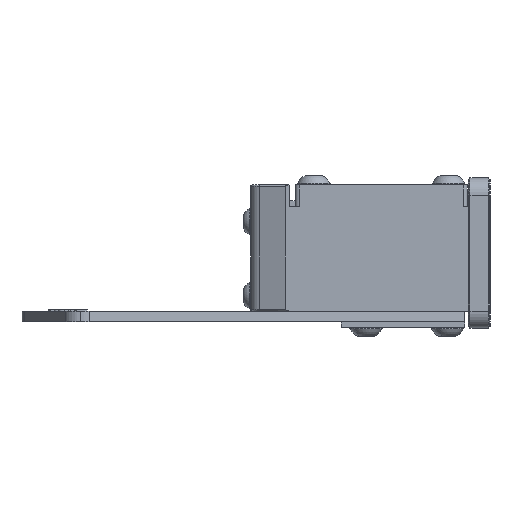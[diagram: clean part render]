
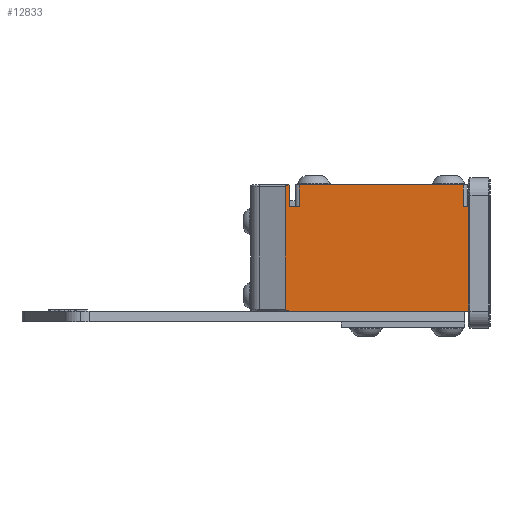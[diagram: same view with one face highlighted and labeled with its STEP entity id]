
A CAD part, left-side view. The second image highlights one B-rep face of the part: STEP entity #12833.
In plain terms, the highlighted planar face has unit normal (-1, 0, 0).
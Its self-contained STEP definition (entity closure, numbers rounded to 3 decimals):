
#32 = DIRECTION ( 'NONE',  ( 0., 0., 1. ) ) ;
#317 = DIRECTION ( 'NONE',  ( 0., 0., 1. ) ) ;
#411 = EDGE_CURVE ( 'NONE', #17088, #29039, #18129, .T. ) ;
#891 = CARTESIAN_POINT ( 'NONE',  ( -79.375, -140.564, 33.675 ) ) ;
#1162 = EDGE_CURVE ( 'NONE', #20002, #11359, #23067, .T. ) ;
#1196 = CARTESIAN_POINT ( 'NONE',  ( -79.375, -139.294, 3.406 ) ) ;
#1363 = LINE ( 'NONE', #17496, #13593 ) ;
#1388 = LINE ( 'NONE', #6150, #7951 ) ;
#1408 = AXIS2_PLACEMENT_3D ( 'NONE', #18941, #4310, #21393 ) ;
#1512 = CARTESIAN_POINT ( 'NONE',  ( -79.375, -140.241, 39.991 ) ) ;
#1779 = LINE ( 'NONE', #14967, #21266 ) ;
#2020 = ORIENTED_EDGE ( 'NONE', *, *, #1162, .T. ) ;
#2089 = ORIENTED_EDGE ( 'NONE', *, *, #28227, .T. ) ;
#2781 = EDGE_CURVE ( 'NONE', #9736, #19938, #26239, .T. ) ;
#2867 = CARTESIAN_POINT ( 'NONE',  ( -79.375, -140.78, 3.195 ) ) ;
#3292 = ORIENTED_EDGE ( 'NONE', *, *, #26029, .F. ) ;
#3655 = CARTESIAN_POINT ( 'NONE',  ( -79.375, -139.294, 3.703 ) ) ;
#3837 = DIRECTION ( 'NONE',  ( 0., -1., 0. ) ) ;
#3868 = DIRECTION ( 'NONE',  ( 1., 0., 0. ) ) ;
#4310 = DIRECTION ( 'NONE',  ( -1., 0., 0. ) ) ;
#4373 = VECTOR ( 'NONE', #14324, 1000. ) ;
#4448 = VERTEX_POINT ( 'NONE', #16555 ) ;
#4702 = CARTESIAN_POINT ( 'NONE',  ( -79.375, -191.11, 40.025 ) ) ;
#4997 = CARTESIAN_POINT ( 'NONE',  ( -79.375, -141.834, 33.675 ) ) ;
#5470 = VERTEX_POINT ( 'NONE', #2867 ) ;
#6150 = CARTESIAN_POINT ( 'NONE',  ( -79.375, -142.088, 40.025 ) ) ;
#6678 = CARTESIAN_POINT ( 'NONE',  ( -79.375, -140.241, 39.991 ) ) ;
#6972 = CIRCLE ( 'NONE', #1408, 0.508 ) ;
#7012 = CARTESIAN_POINT ( 'NONE',  ( -79.375, -141.834, 3.195 ) ) ;
#7951 = VECTOR ( 'NONE', #20746, 1000. ) ;
#8619 = CARTESIAN_POINT ( 'NONE',  ( -79.375, -139.91, 3.195 ) ) ;
#8772 = LINE ( 'NONE', #10368, #15965 ) ;
#8792 = VERTEX_POINT ( 'NONE', #4702 ) ;
#8892 = EDGE_CURVE ( 'NONE', #17088, #8792, #1779, .T. ) ;
#9736 = VERTEX_POINT ( 'NONE', #6678 ) ;
#10183 = LINE ( 'NONE', #7012, #4373 ) ;
#10316 = DIRECTION ( 'NONE',  ( 0., -1., 0. ) ) ;
#10368 = CARTESIAN_POINT ( 'NONE',  ( -79.375, -140.564, -155.56 ) ) ;
#10391 = LINE ( 'NONE', #29960, #11121 ) ;
#10454 = EDGE_CURVE ( 'NONE', #5470, #16608, #10183, .T. ) ;
#11112 = CARTESIAN_POINT ( 'NONE',  ( -79.375, -143.358, 33.675 ) ) ;
#11121 = VECTOR ( 'NONE', #27495, 1000. ) ;
#11359 = VERTEX_POINT ( 'NONE', #11112 ) ;
#11654 = EDGE_CURVE ( 'NONE', #4448, #19938, #29986, .T. ) ;
#11661 = VECTOR ( 'NONE', #3837, 1000. ) ;
#12047 = VECTOR ( 'NONE', #32, 1000. ) ;
#12833 = ADVANCED_FACE ( 'NONE', ( #21511 ), #18492, .F. ) ;
#13584 = CARTESIAN_POINT ( 'NONE',  ( -79.375, -141.834, 37.485 ) ) ;
#13593 = VECTOR ( 'NONE', #10316, 1000. ) ;
#14129 =( BOUNDED_CURVE ( )  B_SPLINE_CURVE ( 3, ( #3655, #1196, #8619, #25642 ),
 .UNSPECIFIED., .F., .F. ) 
 B_SPLINE_CURVE_WITH_KNOTS ( ( 4, 4 ),
 ( 3.142, 4.712 ),
 .UNSPECIFIED. ) 
 CURVE ( )  GEOMETRIC_REPRESENTATION_ITEM ( )  RATIONAL_B_SPLINE_CURVE ( ( 1., 0.805, 0.805, 1. ) ) 
 REPRESENTATION_ITEM ( '' )  );
#14324 = DIRECTION ( 'NONE',  ( 0., -1., 0. ) ) ;
#14485 = ORIENTED_EDGE ( 'NONE', *, *, #8892, .T. ) ;
#14671 = CARTESIAN_POINT ( 'NONE',  ( -79.375, -139.294, -7.617 ) ) ;
#14725 = ORIENTED_EDGE ( 'NONE', *, *, #10454, .T. ) ;
#14967 = CARTESIAN_POINT ( 'NONE',  ( -79.375, -191.11, 40.025 ) ) ;
#15618 = EDGE_CURVE ( 'NONE', #20002, #8792, #1388, .T. ) ;
#15965 = VECTOR ( 'NONE', #25054, 1000. ) ;
#16135 = CARTESIAN_POINT ( 'NONE',  ( -79.375, -139.651, 39.912 ) ) ;
#16555 = CARTESIAN_POINT ( 'NONE',  ( -79.375, -139.294, 3.703 ) ) ;
#16608 = VERTEX_POINT ( 'NONE', #27838 ) ;
#17088 = VERTEX_POINT ( 'NONE', #18289 ) ;
#17319 = VECTOR ( 'NONE', #19031, 1000. ) ;
#17496 = CARTESIAN_POINT ( 'NONE',  ( -79.375, -141.834, 33.675 ) ) ;
#17563 = ORIENTED_EDGE ( 'NONE', *, *, #15618, .F. ) ;
#18129 = LINE ( 'NONE', #4997, #11661 ) ;
#18289 = CARTESIAN_POINT ( 'NONE',  ( -79.375, -191.11, 33.675 ) ) ;
#18492 = PLANE ( 'NONE',  #24452 ) ;
#18592 = CARTESIAN_POINT ( 'NONE',  ( -79.375, -139.294, 39.517 ) ) ;
#18680 = CARTESIAN_POINT ( 'NONE',  ( -79.375, -140.564, 39.517 ) ) ;
#18892 = CARTESIAN_POINT ( 'NONE',  ( -79.375, -139.294, 39.517 ) ) ;
#18941 = CARTESIAN_POINT ( 'NONE',  ( -79.375, -140.056, 39.517 ) ) ;
#19031 = DIRECTION ( 'NONE',  ( 0., 0., -1. ) ) ;
#19131 = CARTESIAN_POINT ( 'NONE',  ( -79.375, -143.358, 40.025 ) ) ;
#19501 = EDGE_CURVE ( 'NONE', #19913, #9736, #6972, .T. ) ;
#19913 = VERTEX_POINT ( 'NONE', #18680 ) ;
#19938 = VERTEX_POINT ( 'NONE', #18892 ) ;
#20002 = VERTEX_POINT ( 'NONE', #29018 ) ;
#20746 = DIRECTION ( 'NONE',  ( 0., -1., 0. ) ) ;
#20942 = DIRECTION ( 'NONE',  ( 0., 1., 0. ) ) ;
#21266 = VECTOR ( 'NONE', #317, 1000. ) ;
#21393 = DIRECTION ( 'NONE',  ( 0., 0., -1. ) ) ;
#21511 = FACE_OUTER_BOUND ( 'NONE', #26060, .T. ) ;
#21636 = ORIENTED_EDGE ( 'NONE', *, *, #11654, .F. ) ;
#22055 = EDGE_CURVE ( 'NONE', #29039, #16608, #10391, .T. ) ;
#22394 = VERTEX_POINT ( 'NONE', #891 ) ;
#23067 = LINE ( 'NONE', #19131, #17319 ) ;
#23255 = ORIENTED_EDGE ( 'NONE', *, *, #411, .F. ) ;
#23993 = EDGE_CURVE ( 'NONE', #22394, #19913, #8772, .T. ) ;
#24452 = AXIS2_PLACEMENT_3D ( 'NONE', #13584, #3868, #20942 ) ;
#25054 = DIRECTION ( 'NONE',  ( 0., 0., 1. ) ) ;
#25642 = CARTESIAN_POINT ( 'NONE',  ( -79.375, -140.78, 3.195 ) ) ;
#26029 = EDGE_CURVE ( 'NONE', #22394, #11359, #1363, .T. ) ;
#26060 = EDGE_LOOP ( 'NONE', ( #2020, #3292, #30526, #30442, #28037, #21636, #2089, #14725, #31306, #23255, #14485, #17563 ) ) ;
#26239 =( BOUNDED_CURVE ( )  B_SPLINE_CURVE ( 3, ( #1512, #16135, #30640, #18592 ),
 .UNSPECIFIED., .F., .F. ) 
 B_SPLINE_CURVE_WITH_KNOTS ( ( 4, 4 ),
 ( 1.942, 3.142 ),
 .UNSPECIFIED. ) 
 CURVE ( )  GEOMETRIC_REPRESENTATION_ITEM ( )  RATIONAL_B_SPLINE_CURVE ( ( 1., 0.884, 0.884, 1. ) ) 
 REPRESENTATION_ITEM ( '' )  );
#27495 = DIRECTION ( 'NONE',  ( 0., 0., -1. ) ) ;
#27838 = CARTESIAN_POINT ( 'NONE',  ( -79.375, -192.634, 3.195 ) ) ;
#28037 = ORIENTED_EDGE ( 'NONE', *, *, #2781, .T. ) ;
#28227 = EDGE_CURVE ( 'NONE', #4448, #5470, #14129, .T. ) ;
#29018 = CARTESIAN_POINT ( 'NONE',  ( -79.375, -143.358, 40.025 ) ) ;
#29039 = VERTEX_POINT ( 'NONE', #30154 ) ;
#29960 = CARTESIAN_POINT ( 'NONE',  ( -79.375, -192.634, 37.485 ) ) ;
#29986 = LINE ( 'NONE', #14671, #12047 ) ;
#30154 = CARTESIAN_POINT ( 'NONE',  ( -79.375, -192.634, 33.675 ) ) ;
#30442 = ORIENTED_EDGE ( 'NONE', *, *, #19501, .T. ) ;
#30526 = ORIENTED_EDGE ( 'NONE', *, *, #23993, .T. ) ;
#30640 = CARTESIAN_POINT ( 'NONE',  ( -79.375, -139.294, 39.734 ) ) ;
#31306 = ORIENTED_EDGE ( 'NONE', *, *, #22055, .F. ) ;
